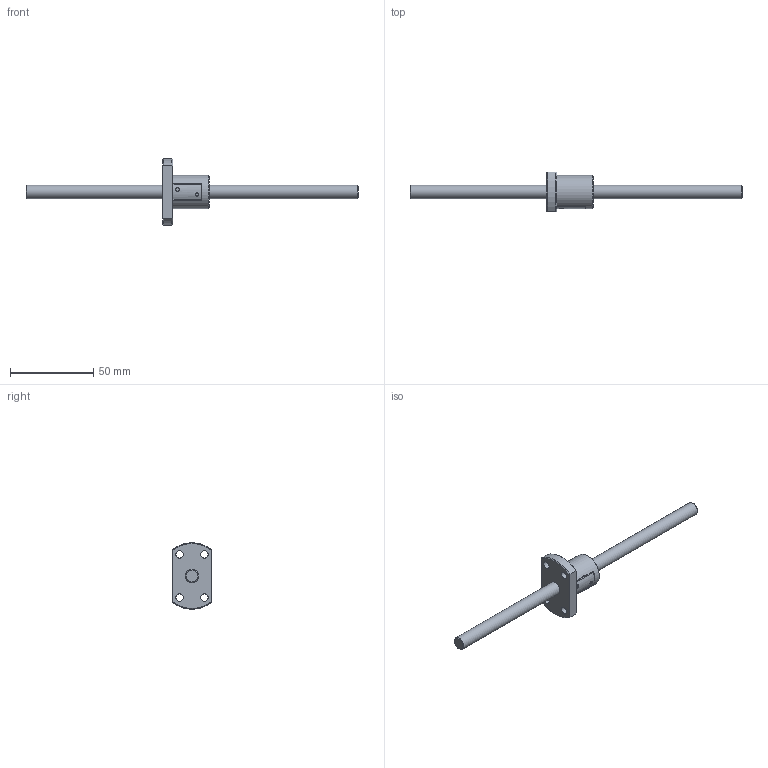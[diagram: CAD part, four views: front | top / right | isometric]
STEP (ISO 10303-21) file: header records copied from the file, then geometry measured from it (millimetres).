
FILE_DESCRIPTION((''),'2;1');
FILE_NAME('D:\製品 (図面)\カタログ用3D\ネジ関連\STEP形式\RBSMA\RBSMA0802-0200.stp','2010-06-02T14:41:18',('Tsuchiya'),(''),'Autodesk Inventor 10','Autodesk Inventor 10','');
FILE_SCHEMA(('AUTOMOTIVE_DESIGN { 1 0 10303 214 1 1 1 1 }'));
Length unit declared in the file: millimetre
Products named in the file (3): RBSMA0802-0200; RBSMA0802-02001; RBSMA0802-02002
Assembly tree (2 placements, depth 2):
  RBSMA0802-0200
    RBSMA0802-02001
    RBSMA0802-02002
Bounding box: 200 x 24 x 40 mm (x, y, z)
Volume: 20514.4 mm3; surface area: 9907.1 mm2
Topology: 2 solids, 2 shells, 40 faces, 93 edges, 63 vertices
Faces by surface type: plane 19, cylinder 14, cone 7
Full cylindrical faces by diameter (mm): 1.95 x2, 2.1 x2, 4.5 x4, 8 x2, 20 x1
Entity records: 1208 total; most frequent: CARTESIAN_POINT 291, DIRECTION 186, ORIENTED_EDGE 144, AXIS2_PLACEMENT_3D 79, EDGE_CURVE 72, EDGE_LOOP 70, VERTEX_POINT 56, FACE_OUTER_BOUND 40
